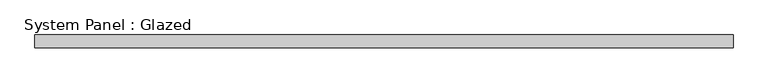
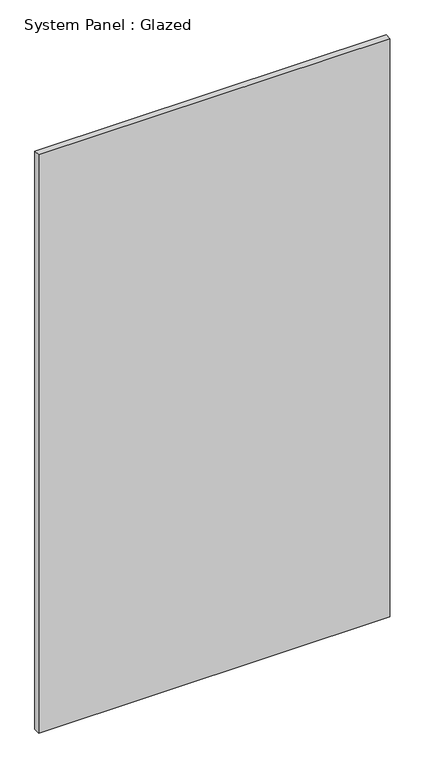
"""IFC4 building model written with IfcOpenShell, lengths in millimetres: plate geometry, System Panel : Glazed."""

from ifc_helpers import new_model, si_unit, origin, origin_with_axes, place, context, project, spatial, polyline, outline, extrude, source, transform, mapped, element, save


def system_panel_glazed_c15c75f2(model_context):
    return source(origin(), model_context, "Body", "SweptSolid", [
        extrude(outline(polyline([(674.9999999, 24.5), (-674.9999999, 24.5), (-674.9999999, 49.5), (674.9999999, 49.5), (674.9999999, 24.5)])), origin_with_axes(), (0.0, 0.0, 1.0), 2350.0),
    ])


if __name__ == "__main__":
    model = new_model("IFC4")
    model_context = context("Model", 3, world=origin())
    ifc_project = project(units=[si_unit("LENGTHUNIT", "METRE", prefix="MILLI")], contexts=[model_context])
    site = spatial("IfcSite", under=ifc_project)
    building = spatial("IfcBuilding", under=site)
    placement = place(None, origin())
    system_panel_glazed_shape = system_panel_glazed_c15c75f2(model_context)
    element("IfcPlate", 1, ObjectType="System Panel : Glazed", at=placement, inside=building, context=model_context, shape_type="MappedRepresentation", body=[
        mapped(system_panel_glazed_shape, transform((0.0, 0.0, 0.0), x_axis=(1.0, 0.0, 0.0), y_axis=(0.0, 1.0, 0.0), z_axis=(0.0, 0.0, 1.0))),
    ])
    save(model, "model.ifc")
